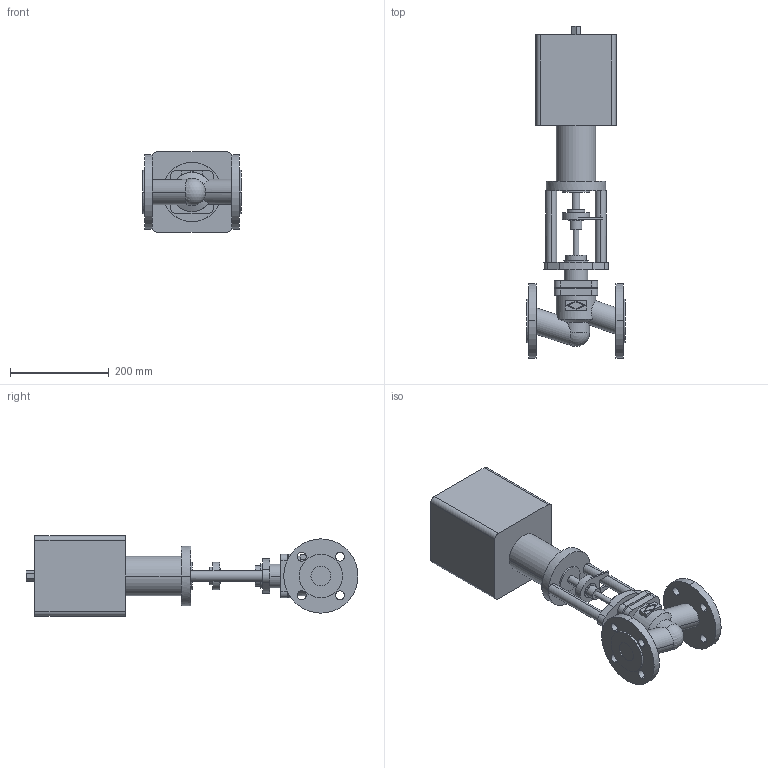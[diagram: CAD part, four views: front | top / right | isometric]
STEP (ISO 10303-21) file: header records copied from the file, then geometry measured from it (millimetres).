
FILE_DESCRIPTION( ( '' ), '1' );
FILE_NAME( 'F:/DE-SHS/TB/OR/04-Sonstiges/daten/files_3d/c000000777.stp', '2014-11-04T12:59:07', ( '' ), ( '' ), ' ', ' ', ' ' );
FILE_SCHEMA( ( 'CONFIG_CONTROL_DESIGN' ) );
Length unit declared in the file: millimetre
Products named in the file (2): 1; 2
Bounding box: 200 x 671 x 162 mm (x, y, z)
Volume: 7263144.5 mm3; surface area: 423115.1 mm2
Topology: 2 solids, 2 shells, 162 faces, 395 edges, 261 vertices
Faces by surface type: cylinder 82, plane 77, cone 2, sphere 1
Entity records: 5385 total; most frequent: CARTESIAN_POINT 1302, DIRECTION 883, ORIENTED_EDGE 786, EDGE_CURVE 393, AXIS2_PLACEMENT_3D 340, VERTEX_POINT 261, EDGE_LOOP 204, LINE 203
